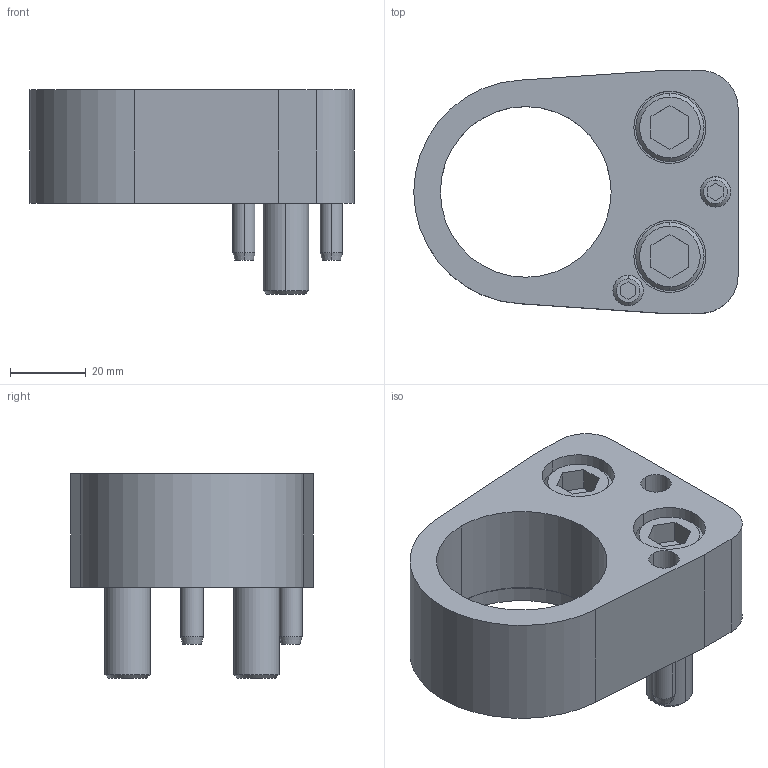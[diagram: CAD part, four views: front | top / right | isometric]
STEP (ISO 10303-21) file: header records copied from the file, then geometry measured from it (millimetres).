
FILE_DESCRIPTION(/* description */ (''),/* implementation_level */ '2;1');
FILE_NAME(/* name */ '3d_dpar45_02801_r00.stp',/* time_stamp */ '2011-01-10T14:15:54+09:00',/* author */ ('MISUMI'),/* organization */ (''),/* preprocessor_version */ 'ST-DEVELOPER v11',/* originating_system */ 'UGS - NX 5.0',/* authorisation */ '');
FILE_SCHEMA (('CONFIG_CONTROL_DESIGN'));
Length unit declared in the file: millimetre
Products named in the file (1): 3d_dpar45_02801_r00
Bounding box: 85.5 x 64 x 54 mm (x, y, z)
Volume: 97095.4 mm3; surface area: 29988.8 mm2
Topology: 7 solids, 7 shells, 135 faces, 292 edges, 186 vertices
Faces by surface type: plane 60, cylinder 49, cone 26
Entity records: 3816 total; most frequent: DIRECTION 684, CARTESIAN_POINT 662, ORIENTED_EDGE 584, EDGE_CURVE 292, AXIS2_PLACEMENT_3D 260, VERTEX_POINT 186, LINE 164, VECTOR 164
